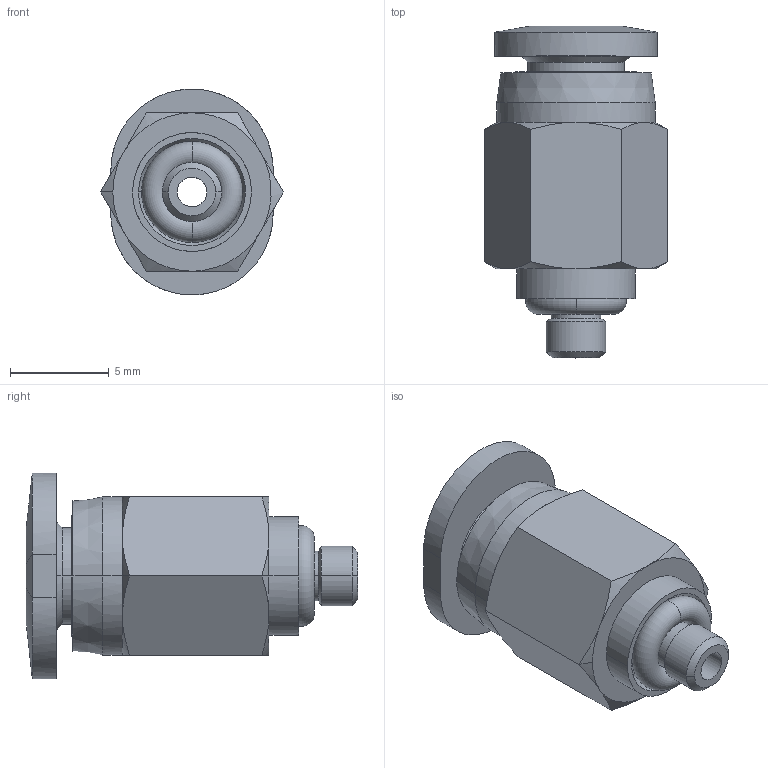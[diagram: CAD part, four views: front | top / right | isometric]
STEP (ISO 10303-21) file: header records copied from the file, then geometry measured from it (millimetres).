
FILE_DESCRIPTION (( 'STEP AP203' ), '1' );
FILE_NAME ('FMH04-M3.STEP', '2020-07-07T10:49:45', ( '' ), ( '' ), 'SwSTEP 2.0', 'SolidWorks 2019', '' );
FILE_SCHEMA (( 'CONFIG_CONTROL_DESIGN' ));
Length unit declared in the file: millimetre
Products named in the file (1): FMH04-M3
Bounding box: 9.24 x 16.77 x 10.4 mm (x, y, z)
Surface area: 807 mm2 (no closed solid volume)
Topology: 0 solids, 4 shells, 72 faces, 161 edges, 99 vertices
Faces by surface type: cone 24, cylinder 20, plane 18, torus 6, bspline 4
Entity records: 3329 total; most frequent: CARTESIAN_POINT 1925, ORIENTED_EDGE 306, DIRECTION 180, EDGE_CURVE 161, B_SPLINE_CURVE_WITH_KNOTS 125, VERTEX_POINT 99, EDGE_LOOP 82, AXIS2_PLACEMENT_3D 75
